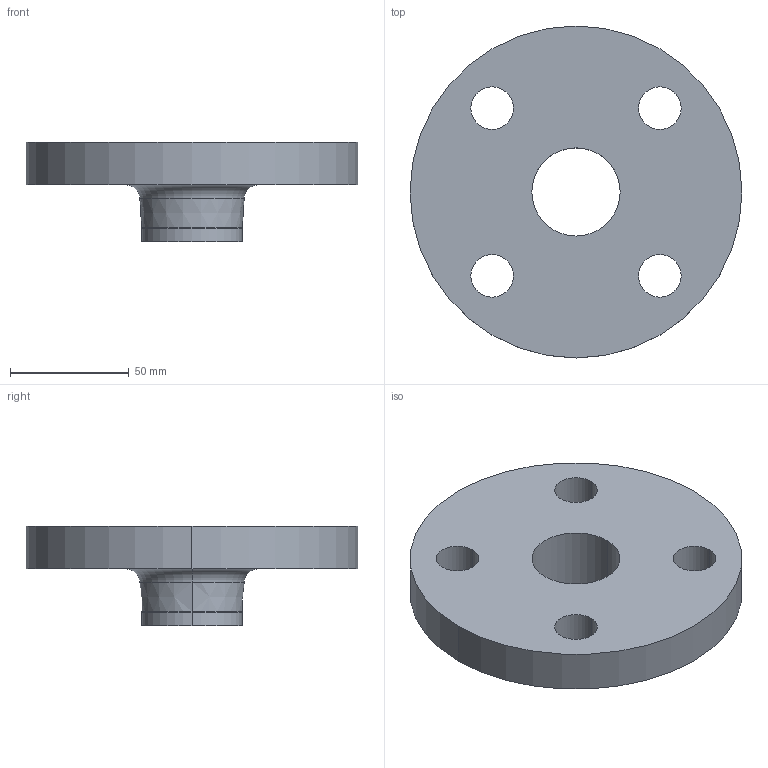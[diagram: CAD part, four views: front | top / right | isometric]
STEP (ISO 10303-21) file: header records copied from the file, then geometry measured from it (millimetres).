
FILE_DESCRIPTION (( 'STEP AP214' ), '1' );
FILE_NAME ('PN40 DN32 Type 11 - Type A Face.STEP', '2018-12-30T00:00:55', ( '' ), ( '' ), 'SwSTEP 2.0', 'SolidWorks 2019', '' );
FILE_SCHEMA (( 'AUTOMOTIVE_DESIGN' ));
Length unit declared in the file: millimetre
Products named in the file (1): PN40 DN32 Type 11 - Type A Face
Bounding box: 140 x 140 x 42 mm (x, y, z)
Volume: 249437 mm3; surface area: 46287 mm2
Topology: 1 solids, 1 shells, 23 faces, 54 edges, 34 vertices
Faces by surface type: cylinder 14, torus 4, plane 3, cone 2
Entity records: 732 total; most frequent: DIRECTION 140, CARTESIAN_POINT 112, ORIENTED_EDGE 108, AXIS2_PLACEMENT_3D 62, EDGE_CURVE 54, CIRCLE 38, EDGE_LOOP 34, VERTEX_POINT 34
